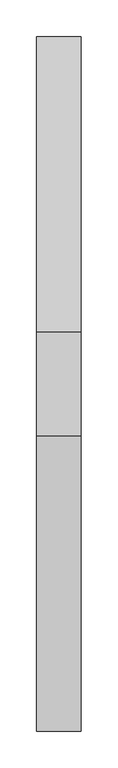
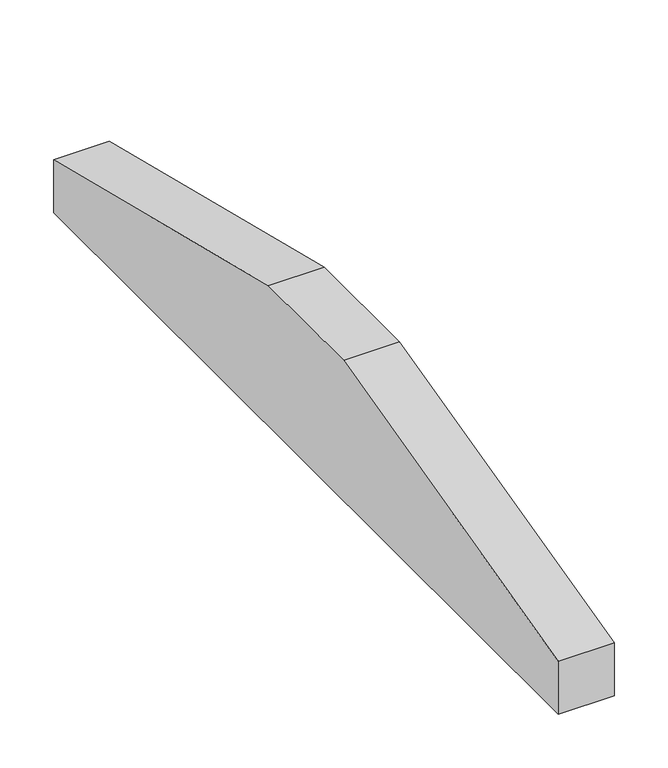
"""IFC4 building model written with IfcOpenShell, lengths in millimetres: proxy geometry, Modelos genéricos 165 : Modelos genéricos 144."""

from ifc_helpers import new_model, si_unit, frame, origin, place, context, project, spatial, polyline, outline, extrude, source, transform, mapped, element, save


def generic_models_9295ec12(model_context):
    return source(origin(), model_context, "Body", "SweptSolid", [
        extrude(outline(polyline([(2018.6238165, 4209.7515316), (2418.6238165, 4110.0203305), (2418.6238165, 4049.7515316), (1478.6238165, 4049.7515316), (1478.6238165, 4110.0203305), (1878.6238165, 4209.7515316), (2018.6238165, 4209.7515316)])), frame((55333.4472467, 0.0, 0.0), z_axis=(1.0, 0.0, 0.0), x_axis=(0.0, 1.0, 0.0)), (0.0, 0.0, 1.0), 60.0),
    ])


if __name__ == "__main__":
    model = new_model("IFC4")
    model_context = context("Model", 3, world=origin())
    ifc_project = project(units=[si_unit("LENGTHUNIT", "METRE", prefix="MILLI")], contexts=[model_context])
    site = spatial("IfcSite", under=ifc_project)
    building = spatial("IfcBuilding", under=site)
    placement = place(None, origin())
    generic_models_shape = generic_models_9295ec12(model_context)
    element("IfcBuildingElementProxy", 1, Name="Modelos genéricos 165 : Modelos genéricos 144", ObjectType="Modelos genéricos 165 : Modelos genéricos 144", at=placement, inside=building, context=model_context, shape_type="MappedRepresentation", body=[
        mapped(generic_models_shape, transform((0.0, 0.0, 0.0), x_axis=(1.0, 0.0, 0.0), y_axis=(0.0, 1.0, 0.0), z_axis=(0.0, 0.0, 1.0))),
    ])
    save(model, "model.ifc")
